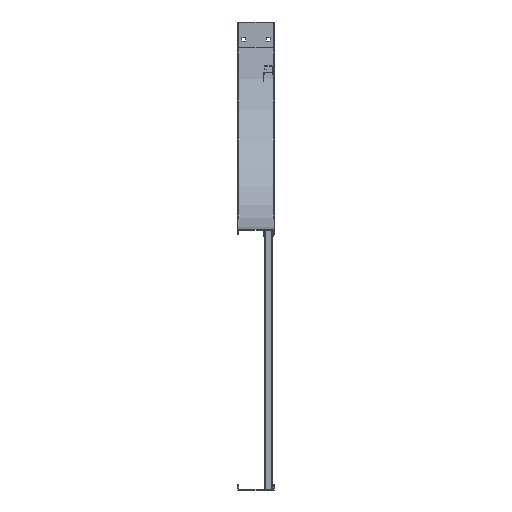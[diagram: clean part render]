
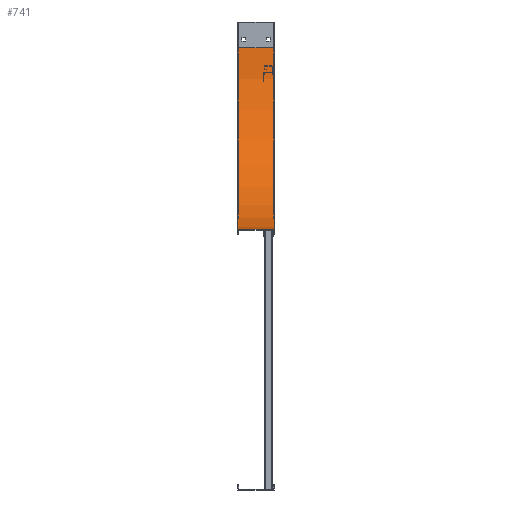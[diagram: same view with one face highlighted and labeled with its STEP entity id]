
A CAD part, left-side view. The second image highlights one B-rep face of the part: STEP entity #741.
In plain terms, the highlighted cylindrical face has radius 533.4 mm (diameter 1066.8 mm), a partial arc.
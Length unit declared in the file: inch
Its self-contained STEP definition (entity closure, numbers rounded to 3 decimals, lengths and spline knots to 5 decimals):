
#156=CARTESIAN_POINT('',(0.,-21.,3.));
#157=DIRECTION('',(1.,0.,0.));
#158=DIRECTION('',(0.,1.,0.));
#159=AXIS2_PLACEMENT_3D('',#156,#157,#158);
#165=DIRECTION('',(1.,0.,0.));
#166=VECTOR('',#165,4.175);
#167=CARTESIAN_POINT('',(-4.175,0.,3.));
#168=LINE('',#167,#166);
#169=CARTESIAN_POINT('',(-4.175,-21.,3.));
#170=DIRECTION('',(1.,0.,0.));
#171=DIRECTION('',(0.,1.,0.));
#172=AXIS2_PLACEMENT_3D('',#169,#170,#171);
#174=DIRECTION('',(1.,0.,0.));
#175=VECTOR('',#174,4.175);
#176=CARTESIAN_POINT('',(-4.175,-21.,24.));
#177=LINE('',#176,#175);
#409=CARTESIAN_POINT('',(-4.175,0.,3.));
#410=CARTESIAN_POINT('',(0.,0.,3.));
#411=VERTEX_POINT('',#409);
#412=VERTEX_POINT('',#410);
#425=CARTESIAN_POINT('',(-4.175,-21.,24.));
#426=CARTESIAN_POINT('',(0.,-21.,24.));
#427=VERTEX_POINT('',#425);
#428=VERTEX_POINT('',#426);
#729=CARTESIAN_POINT('',(-1.,-21.,3.));
#730=DIRECTION('',(1.,0.,0.));
#731=DIRECTION('',(0.,-1.,0.));
#732=AXIS2_PLACEMENT_3D('',#729,#730,#731);
#733=CYLINDRICAL_SURFACE('',#732,21.);
#734=ORIENTED_EDGE('',*,*,#553,.F.);
#735=ORIENTED_EDGE('',*,*,#596,.T.);
#737=ORIENTED_EDGE('',*,*,#736,.T.);
#738=ORIENTED_EDGE('',*,*,#715,.F.);
#739=EDGE_LOOP('',(#734,#735,#737,#738));
#740=FACE_OUTER_BOUND('',#739,.F.);
#741=ADVANCED_FACE('',(#740),#733,.F.);
#160=CIRCLE('',#159,21.);
#173=CIRCLE('',#172,21.);
#553=EDGE_CURVE('',#411,#412,#168,.T.);
#596=EDGE_CURVE('',#411,#427,#173,.T.);
#715=EDGE_CURVE('',#412,#428,#160,.T.);
#736=EDGE_CURVE('',#427,#428,#177,.T.);
